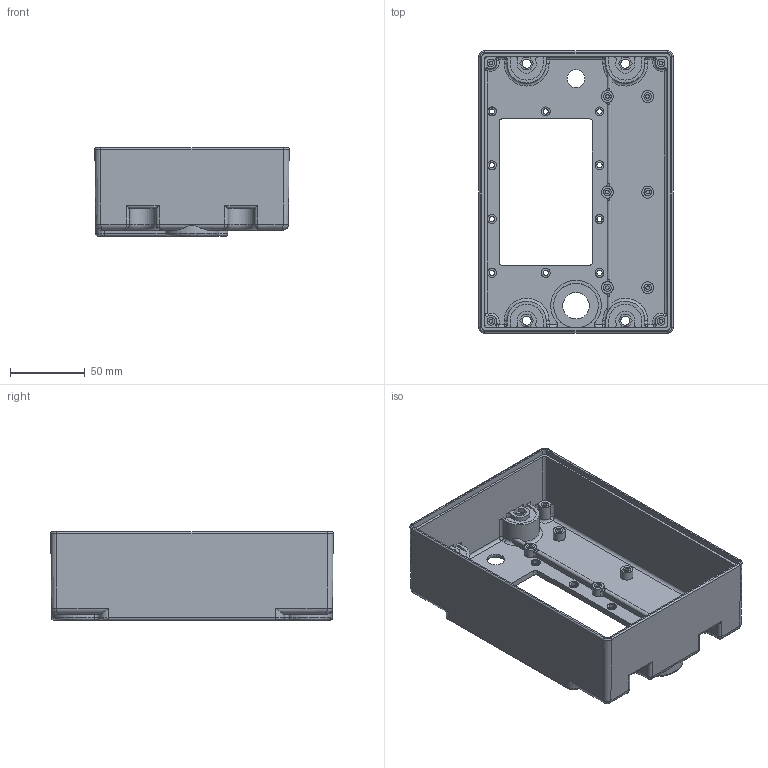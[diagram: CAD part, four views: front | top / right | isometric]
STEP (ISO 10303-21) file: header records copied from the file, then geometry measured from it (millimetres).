
FILE_DESCRIPTION(/* description */ (''),/* implementation_level */ '2;1');
FILE_NAME(/* name */ 'Y:\Projects\New LMS\Command Console\Mechanical Design\COMMAND CONSOLE VERSION 2\COMMAND CONSOLE V2 SCREEN ENCL WITH INSERTS & DRAFT.stp',/* time_stamp */ '2021-12-15T08:42:44+02:00',/* author */ ('Riaan'),/* organization */ (''),/* preprocessor_version */ 'ST-DEVELOPER v18',/* originating_system */ 'Autodesk Inventor 2020',/* authorisation */ '');
FILE_SCHEMA (('AUTOMOTIVE_DESIGN { 1 0 10303 214 3 1 1 }'));
Length unit declared in the file: millimetre
Products named in the file (3): COMMAND CONSOLE V2 SCREEN ENCL WITH INSERTS & DRAFT MIN; SCREEN ENCLOSURE .5deg draft REV1; M3 brass insert
Assembly tree (11 placements, depth 2):
  COMMAND CONSOLE V2 SCREEN ENCL WITH INSERTS & DRAFT MIN
    SCREEN ENCLOSURE .5deg draft REV1
    M3 brass insert  x10
Bounding box: 129.98 x 188.98 x 59.1 mm (x, y, z)
Volume: 197817.3 mm3; surface area: 115055.7 mm2
Topology: 11 solids, 11 shells, 637 faces, 1663 edges, 1080 vertices
Faces by surface type: plane 284, cylinder 212, bspline 91, torus 38, sphere 8, cone 4
Full cylindrical faces by diameter (mm): 2.459 x10, 3.5 x10, 5 x20, 6 x14, 8 x6, 12 x1, 17.7 x1, 30 x2
Entity records: 23133 total; most frequent: CARTESIAN_POINT 8185, ORIENTED_EDGE 3176, DIRECTION 2963, EDGE_CURVE 1588, AXIS2_PLACEMENT_3D 1069, VERTEX_POINT 1035, LINE 825, VECTOR 825
